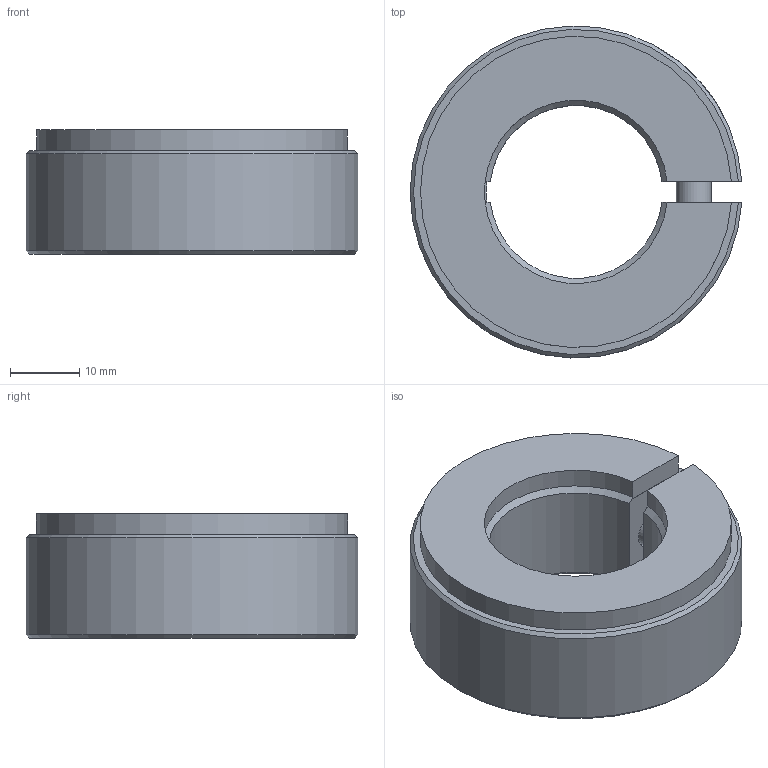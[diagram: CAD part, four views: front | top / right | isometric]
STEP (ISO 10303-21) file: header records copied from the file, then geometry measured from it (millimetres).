
FILE_DESCRIPTION( ( 'STEP AP203' ), '1' );
FILE_NAME( 'C:/Temp/Ganter_Step_05_03_2020/data/3_2/gn7062_3/Semi-split Stainless Steel-Set collar GN 7062.3-48-B25-NI.stp', '2020-03-13T05:40:25', ( 'License CC BY-ND 4.0' ), ( 'CADENAS' ), ' ', 'PARTsolutions', ' ' );
FILE_SCHEMA( ( 'CONFIG_CONTROL_DESIGN' ) );
Length unit declared in the file: millimetre
Products named in the file (1): _Semi-split Stainless Steel-Set collar GN 7062.3-48-B25-NI
Bounding box: 47.95 x 47.98 x 18 mm (x, y, z)
Volume: 21623.3 mm3; surface area: 7580.3 mm2
Topology: 1 solids, 1 shells, 36 faces, 89 edges, 59 vertices
Faces by surface type: plane 20, cylinder 10, cone 5, torus 1
Full cylindrical faces by diameter (mm): 5 x1, 5.4 x1, 8.5 x1, 9 x1
Entity records: 1182 total; most frequent: CARTESIAN_POINT 297, DIRECTION 170, ORIENTED_EDGE 168, EDGE_CURVE 84, AXIS2_PLACEMENT_3D 64, VERTEX_POINT 59, EDGE_LOOP 47, LINE 42
